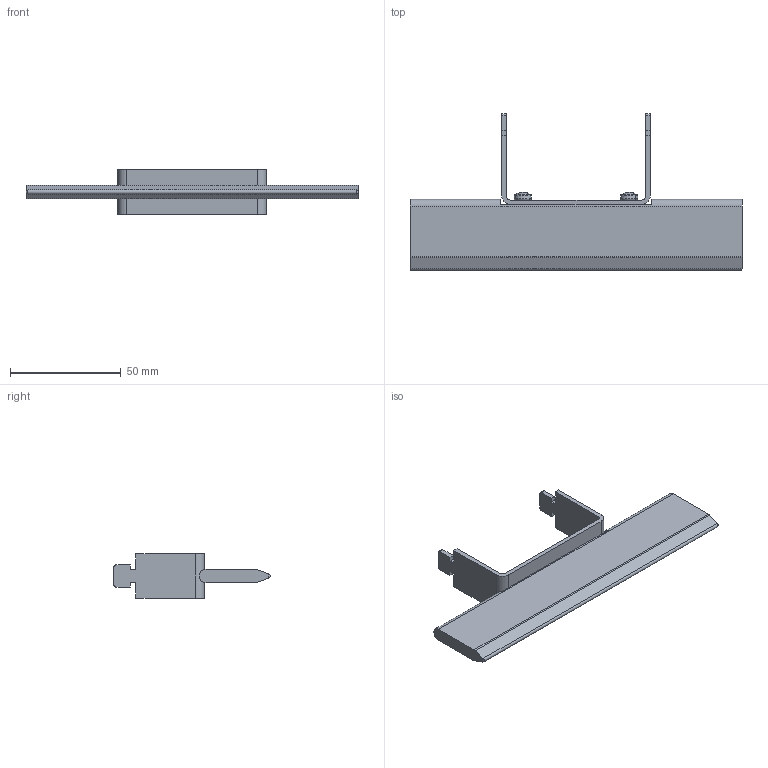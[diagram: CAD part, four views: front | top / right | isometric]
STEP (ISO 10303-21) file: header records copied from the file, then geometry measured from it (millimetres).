
FILE_DESCRIPTION (( 'STEP AP214' ), '1' );
FILE_NAME ('ZP3.step', '2011-08-23T10:43:55', ( 'Radek Veselý' ), ( 'Siemens and Partners' ), 'SwSTEP 2.0', 'SolidWorks 2006303', '' );
FILE_SCHEMA (( 'AUTOMOTIVE_DESIGN' ));
Length unit declared in the file: millimetre
Products named in the file (1): ZP3
Bounding box: 150 x 70.7 x 20 mm (x, y, z)
Volume: 30888.6 mm3; surface area: 17278.9 mm2
Topology: 4 solids, 4 shells, 143 faces, 376 edges, 238 vertices
Faces by surface type: plane 81, cylinder 36, cone 12, torus 8, sphere 4, bspline 2
Entity records: 6484 total; most frequent: CARTESIAN_POINT 1357, ORIENTED_EDGE 736, DIRECTION 732, EDGE_CURVE 368, AXIS2_PLACEMENT_3D 258, VERTEX_POINT 238, LINE 216, VECTOR 216
